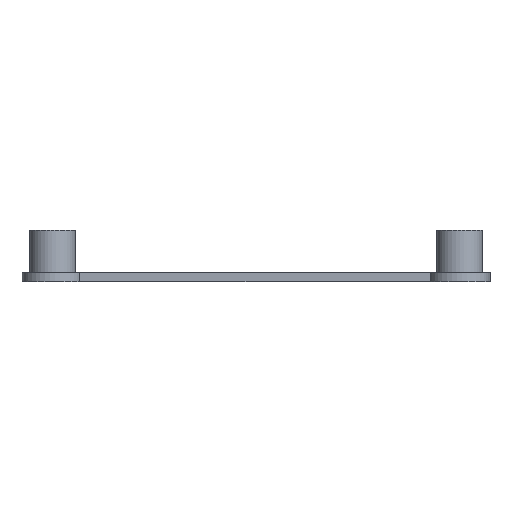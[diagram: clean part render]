
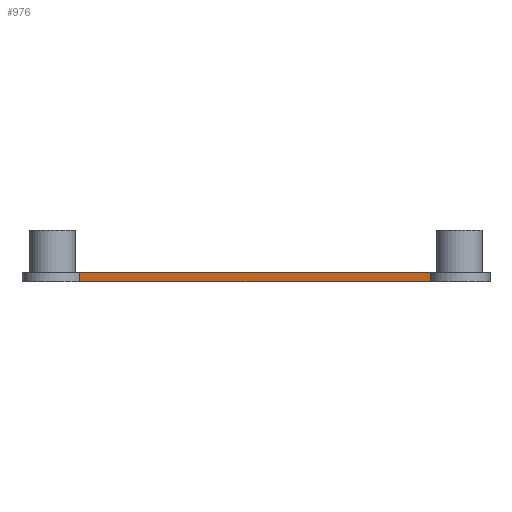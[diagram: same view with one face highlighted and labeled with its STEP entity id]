
A CAD part, left-side view. The second image highlights one B-rep face of the part: STEP entity #976.
In plain terms, the highlighted planar face has unit normal (-0.996, 0.086, 0).
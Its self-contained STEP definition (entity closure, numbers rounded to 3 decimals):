
#33 = PLANE('',#34);
#34 = AXIS2_PLACEMENT_3D('',#35,#36,#37);
#35 = CARTESIAN_POINT('',(4.,4.,0.));
#36 = DIRECTION('',(0.,0.,1.));
#37 = DIRECTION('',(1.,0.,-0.));
#267 = VERTEX_POINT('',#268);
#268 = CARTESIAN_POINT('',(6.788,53.934,0.));
#283 = CYLINDRICAL_SURFACE('',#284,4.);
#284 = AXIS2_PLACEMENT_3D('',#285,#286,#287);
#285 = CARTESIAN_POINT('',(8.6,57.5,0.));
#286 = DIRECTION('',(-0.,-0.,-1.));
#287 = DIRECTION('',(1.,0.,0.));
#295 = EDGE_CURVE('',#296,#267,#298,.T.);
#296 = VERTEX_POINT('',#297);
#297 = CARTESIAN_POINT('',(2.823,7.823,0.));
#298 = SURFACE_CURVE('',#299,(#303,#310),.PCURVE_S1.);
#299 = LINE('',#300,#301);
#300 = CARTESIAN_POINT('',(2.506,4.128,0.));
#301 = VECTOR('',#302,1.);
#302 = DIRECTION('',(0.086,0.996,0.));
#303 = PCURVE('',#33,#304);
#304 = DEFINITIONAL_REPRESENTATION('',(#305),#309);
#305 = LINE('',#306,#307);
#306 = CARTESIAN_POINT('',(-1.494,0.128));
#307 = VECTOR('',#308,1.);
#308 = DIRECTION('',(0.086,0.996));
#309 = ( GEOMETRIC_REPRESENTATION_CONTEXT(2) 
PARAMETRIC_REPRESENTATION_CONTEXT() REPRESENTATION_CONTEXT('2D SPACE',''
  ) );
#310 = PCURVE('',#311,#316);
#311 = PLANE('',#312);
#312 = AXIS2_PLACEMENT_3D('',#313,#314,#315);
#313 = CARTESIAN_POINT('',(2.506,4.128,0.));
#314 = DIRECTION('',(-0.996,0.086,0.));
#315 = DIRECTION('',(0.086,0.996,0.));
#316 = DEFINITIONAL_REPRESENTATION('',(#317),#321);
#317 = LINE('',#318,#319);
#318 = CARTESIAN_POINT('',(0.,0.));
#319 = VECTOR('',#320,1.);
#320 = DIRECTION('',(1.,0.));
#321 = ( GEOMETRIC_REPRESENTATION_CONTEXT(2) 
PARAMETRIC_REPRESENTATION_CONTEXT() REPRESENTATION_CONTEXT('2D SPACE',''
  ) );
#340 = CYLINDRICAL_SURFACE('',#341,4.);
#341 = AXIS2_PLACEMENT_3D('',#342,#343,#344);
#342 = CARTESIAN_POINT('',(4.,4.,0.));
#343 = DIRECTION('',(-0.,-0.,-1.));
#344 = DIRECTION('',(1.,0.,0.));
#522 = PLANE('',#523);
#523 = AXIS2_PLACEMENT_3D('',#524,#525,#526);
#524 = CARTESIAN_POINT('',(102.,4.,1.2));
#525 = DIRECTION('',(0.,0.,1.));
#526 = DIRECTION('',(1.,0.,-0.));
#933 = VERTEX_POINT('',#934);
#934 = CARTESIAN_POINT('',(6.788,53.934,1.2));
#956 = EDGE_CURVE('',#933,#267,#957,.T.);
#957 = SURFACE_CURVE('',#958,(#962,#969),.PCURVE_S1.);
#958 = LINE('',#959,#960);
#959 = CARTESIAN_POINT('',(6.788,53.934,0.));
#960 = VECTOR('',#961,1.);
#961 = DIRECTION('',(-0.,-0.,-1.));
#962 = PCURVE('',#283,#963);
#963 = DEFINITIONAL_REPRESENTATION('',(#964),#968);
#964 = LINE('',#965,#966);
#965 = CARTESIAN_POINT('',(-4.242,0.));
#966 = VECTOR('',#967,1.);
#967 = DIRECTION('',(-0.,1.));
#968 = ( GEOMETRIC_REPRESENTATION_CONTEXT(2) 
PARAMETRIC_REPRESENTATION_CONTEXT() REPRESENTATION_CONTEXT('2D SPACE',''
  ) );
#969 = PCURVE('',#311,#970);
#970 = DEFINITIONAL_REPRESENTATION('',(#971),#975);
#971 = LINE('',#972,#973);
#972 = CARTESIAN_POINT('',(49.989,0.));
#973 = VECTOR('',#974,1.);
#974 = DIRECTION('',(0.,1.));
#975 = ( GEOMETRIC_REPRESENTATION_CONTEXT(2) 
PARAMETRIC_REPRESENTATION_CONTEXT() REPRESENTATION_CONTEXT('2D SPACE',''
  ) );
#976 = ADVANCED_FACE('',(#977),#311,.T.);
#977 = FACE_BOUND('',#978,.T.);
#978 = EDGE_LOOP('',(#979,#980,#1003,#1024));
#979 = ORIENTED_EDGE('',*,*,#295,.F.);
#980 = ORIENTED_EDGE('',*,*,#981,.F.);
#981 = EDGE_CURVE('',#982,#296,#984,.T.);
#982 = VERTEX_POINT('',#983);
#983 = CARTESIAN_POINT('',(2.823,7.823,1.2));
#984 = SURFACE_CURVE('',#985,(#989,#996),.PCURVE_S1.);
#985 = LINE('',#986,#987);
#986 = CARTESIAN_POINT('',(2.823,7.823,0.));
#987 = VECTOR('',#988,1.);
#988 = DIRECTION('',(-0.,-0.,-1.));
#989 = PCURVE('',#311,#990);
#990 = DEFINITIONAL_REPRESENTATION('',(#991),#995);
#991 = LINE('',#992,#993);
#992 = CARTESIAN_POINT('',(3.708,0.));
#993 = VECTOR('',#994,1.);
#994 = DIRECTION('',(0.,1.));
#995 = ( GEOMETRIC_REPRESENTATION_CONTEXT(2) 
PARAMETRIC_REPRESENTATION_CONTEXT() REPRESENTATION_CONTEXT('2D SPACE',''
  ) );
#996 = PCURVE('',#340,#997);
#997 = DEFINITIONAL_REPRESENTATION('',(#998),#1002);
#998 = LINE('',#999,#1000);
#999 = CARTESIAN_POINT('',(-1.869,0.));
#1000 = VECTOR('',#1001,1.);
#1001 = DIRECTION('',(-0.,1.));
#1002 = ( GEOMETRIC_REPRESENTATION_CONTEXT(2) 
PARAMETRIC_REPRESENTATION_CONTEXT() REPRESENTATION_CONTEXT('2D SPACE',''
  ) );
#1003 = ORIENTED_EDGE('',*,*,#1004,.T.);
#1004 = EDGE_CURVE('',#982,#933,#1005,.T.);
#1005 = SURFACE_CURVE('',#1006,(#1010,#1017),.PCURVE_S1.);
#1006 = LINE('',#1007,#1008);
#1007 = CARTESIAN_POINT('',(2.506,4.128,1.2));
#1008 = VECTOR('',#1009,1.);
#1009 = DIRECTION('',(0.086,0.996,0.));
#1010 = PCURVE('',#311,#1011);
#1011 = DEFINITIONAL_REPRESENTATION('',(#1012),#1016);
#1012 = LINE('',#1013,#1014);
#1013 = CARTESIAN_POINT('',(0.,-1.2));
#1014 = VECTOR('',#1015,1.);
#1015 = DIRECTION('',(1.,0.));
#1016 = ( GEOMETRIC_REPRESENTATION_CONTEXT(2) 
PARAMETRIC_REPRESENTATION_CONTEXT() REPRESENTATION_CONTEXT('2D SPACE',''
  ) );
#1017 = PCURVE('',#522,#1018);
#1018 = DEFINITIONAL_REPRESENTATION('',(#1019),#1023);
#1019 = LINE('',#1020,#1021);
#1020 = CARTESIAN_POINT('',(-99.494,0.128));
#1021 = VECTOR('',#1022,1.);
#1022 = DIRECTION('',(0.086,0.996));
#1023 = ( GEOMETRIC_REPRESENTATION_CONTEXT(2) 
PARAMETRIC_REPRESENTATION_CONTEXT() REPRESENTATION_CONTEXT('2D SPACE',''
  ) );
#1024 = ORIENTED_EDGE('',*,*,#956,.T.);
